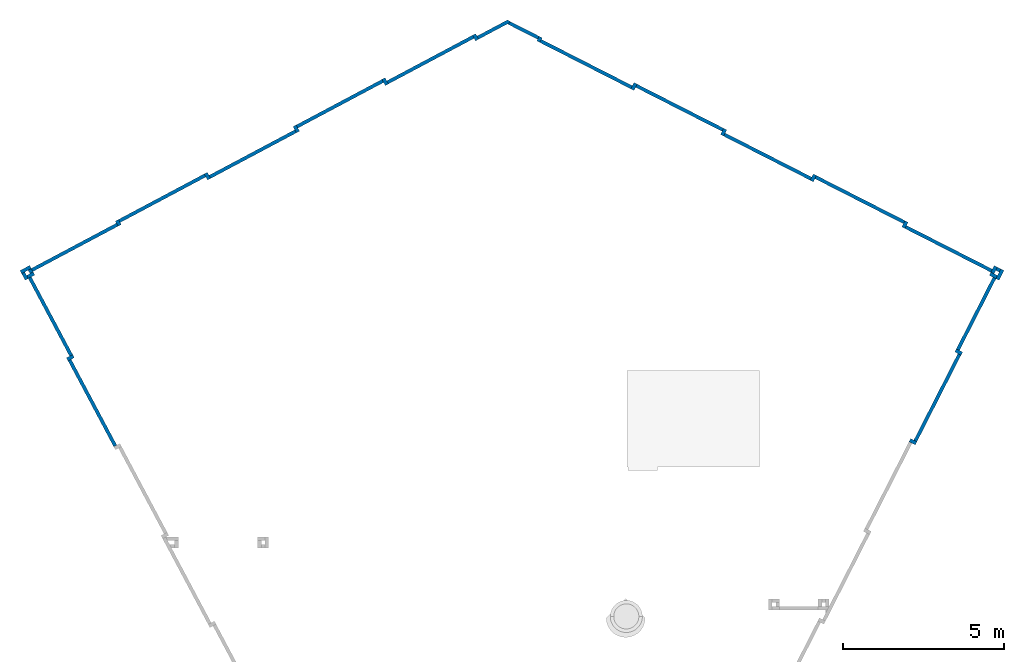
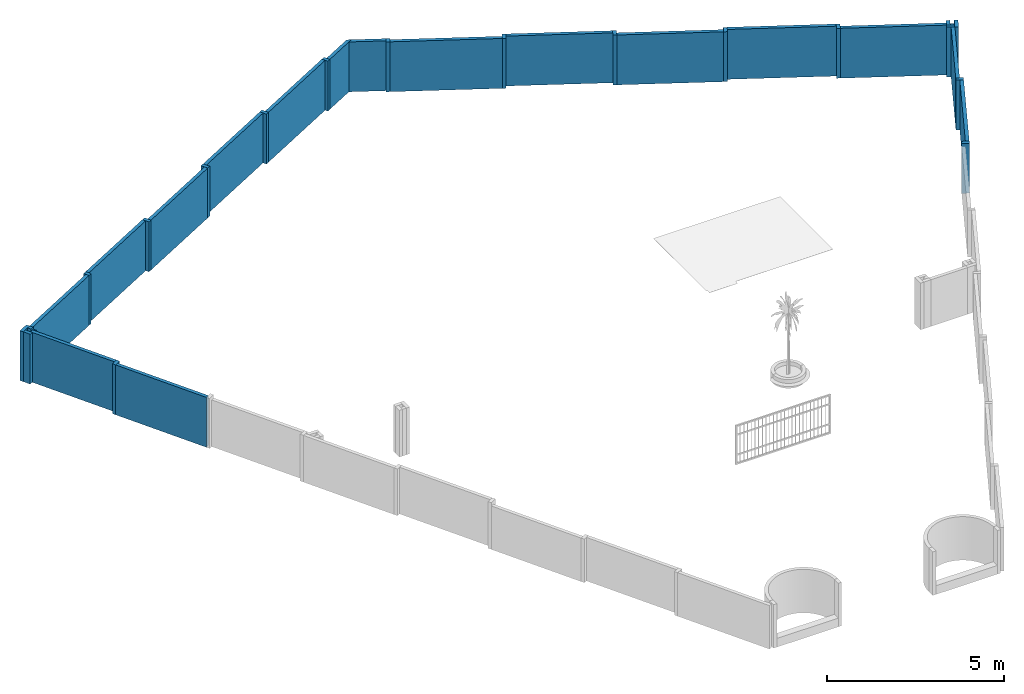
# One storey, part 2 of 4: 37 walls.
"""IFC2X3 building model written with IfcOpenShell, lengths in millimetres."""

from ifc_helpers import new_model, entity, si_unit, converted_unit, derived_unit, direction, frame, frame_2d, origin, place, context, subcontext, project, spatial, polyline, rectangle, outline, extrude, material, layer, layer_set, layer_usage, type_object, element, save


model = new_model("IFC2X3")

# Units and contexts
model_context = context("Model", 3, precision=0.01, world=origin(), true_north=direction((6.12303176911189e-17, 1.0)))
body_context = subcontext(model_context, "Body", "Model", "MODEL_VIEW")
ifc_project = project(units=[si_unit("LENGTHUNIT", "METRE", prefix="MILLI"), si_unit("AREAUNIT", "SQUARE_METRE"), si_unit("VOLUMEUNIT", "CUBIC_METRE"), converted_unit("PLANEANGLEUNIT", "DEGREE", entity("IfcRatioMeasure", 0.0174532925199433), si_unit("PLANEANGLEUNIT", "RADIAN"), dimensions=[0, 0, 0, 0, 0, 0, 0]), si_unit("MASSUNIT", "GRAM", prefix="KILO"), derived_unit("MASSDENSITYUNIT", [(si_unit("MASSUNIT", "GRAM", prefix="KILO"), 1), (si_unit("LENGTHUNIT", "METRE"), -3)]), si_unit("TIMEUNIT", "SECOND"), si_unit("FREQUENCYUNIT", "HERTZ"), si_unit("THERMODYNAMICTEMPERATUREUNIT", "DEGREE_CELSIUS"), derived_unit("THERMALTRANSMITTANCEUNIT", [(si_unit("MASSUNIT", "GRAM", prefix="KILO"), 1), (si_unit("THERMODYNAMICTEMPERATUREUNIT", "KELVIN"), -1), (si_unit("TIMEUNIT", "SECOND"), -3)]), derived_unit("VOLUMETRICFLOWRATEUNIT", [(si_unit("LENGTHUNIT", "METRE"), 3), (si_unit("TIMEUNIT", "SECOND"), -1)]), si_unit("ELECTRICCURRENTUNIT", "AMPERE"), si_unit("ELECTRICVOLTAGEUNIT", "VOLT"), si_unit("POWERUNIT", "WATT"), si_unit("FORCEUNIT", "NEWTON", prefix="KILO"), si_unit("ILLUMINANCEUNIT", "LUX"), si_unit("LUMINOUSFLUXUNIT", "LUMEN"), si_unit("LUMINOUSINTENSITYUNIT", "CANDELA"), derived_unit("USERDEFINED", [(si_unit("MASSUNIT", "GRAM", prefix="KILO"), -1), (si_unit("LENGTHUNIT", "METRE"), -2), (si_unit("TIMEUNIT", "SECOND"), 3), (si_unit("LUMINOUSFLUXUNIT", "LUMEN"), 1)]), derived_unit("LINEARVELOCITYUNIT", [(si_unit("LENGTHUNIT", "METRE"), 1), (si_unit("TIMEUNIT", "SECOND"), -1)]), si_unit("PRESSUREUNIT", "PASCAL"), derived_unit("USERDEFINED", [(si_unit("LENGTHUNIT", "METRE"), -2), (si_unit("MASSUNIT", "GRAM", prefix="KILO"), 1), (si_unit("TIMEUNIT", "SECOND"), -2)])], contexts=[model_context])

# Site, building, storey
site_placement = place(None, origin())
site = spatial("IfcSite", under=ifc_project, at=site_placement, Name="Surface", CompositionType="ELEMENT")
building_placement = place(site_placement, origin())
building = spatial("IfcBuilding", under=site, at=building_placement, CompositionType="ELEMENT")
storey_placement = place(building_placement, origin())
storey = spatial("IfcBuildingStorey", under=building, at=storey_placement, Name="N.G.L", CompositionType="ELEMENT", Elevation=0.0)

# Walls
ifc_material = material(Name="Brickwork - Facebrick (Plettenberg Autumn)")
ifc_layer = layer(ifc_material, 110.0)
ifc_layer_set = layer_set([ifc_layer], Name="Basic Wall:BrickWall - 110mm (Ext.F&Int.F)")
ifc_layer_usage_1 = layer_usage(ifc_layer_set, "AXIS2", "NEGATIVE", 55.0)
wall_type = type_object("IfcWallType", Name="Basic Wall:BrickWall - 110mm (Ext.F&Int.F)", PredefinedType="STANDARD", material=ifc_layer_set)
wall_1_placement = place(storey_placement, frame((-16858.51003831, 8195.0389259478, -170.0), z_axis=(0.0, 0.0, 1.0), x_axis=(-0.469471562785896, 0.882947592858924, 0.0)))
element("IfcWallStandardCase", 1, at=wall_1_placement, inside=storey, type_object=wall_type, material=ifc_layer_usage_1, Name="Basic Wall:BrickWall - 110mm (Ext.F&Int.F)", ObjectType="Basic Wall:BrickWall - 110mm (Ext.F&Int.F)", context=body_context, shape_type="SweptSolid", body=[
    extrude(rectangle(XDim=3020.0, YDim=109.999999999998, at=frame_2d((1510.0, -3.01980662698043e-13), x_axis=(-1.0, 0.0))), origin(), (0.0, 0.0, 1.0), 1720.0),
])
ifc_layer_usage_2 = layer_usage(ifc_layer_set, "AXIS2", "POSITIVE", -55.0)
wall_2_placement = place(storey_placement, frame((-18350.6972114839, 10884.2818380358, -170.0), z_axis=(0.0, 0.0, 1.0), x_axis=(0.88294759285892, 0.469471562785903, 0.0)))
element("IfcWallStandardCase", 2, at=wall_2_placement, inside=storey, type_object=wall_type, material=ifc_layer_usage_2, Name="Basic Wall:BrickWall - 110mm (Ext.F&Int.F)", ObjectType="Basic Wall:BrickWall - 110mm (Ext.F&Int.F)", context=body_context, shape_type="SweptSolid", body=[
    extrude(rectangle(XDim=219.999999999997, YDim=109.999999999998, at=frame_2d((109.999999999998, 5.04485342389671e-13), x_axis=(-1.0, 0.0))), origin(), (0.0, 0.0, 1.0), 1720.0),
])
ifc_layer_usage_3 = layer_usage(ifc_layer_set, "AXIS2", "POSITIVE", -55.0)
wall_3_placement = place(storey_placement, frame((-18230.8317946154, 11010.3067635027, -170.0), z_axis=(0.0, 0.0, 1.0), x_axis=(-0.469471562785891, 0.882947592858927, 0.0)))
element("IfcWallStandardCase", 3, at=wall_3_placement, inside=storey, type_object=wall_type, material=ifc_layer_usage_3, Name="Basic Wall:BrickWall - 110mm (Ext.F&Int.F)", ObjectType="Basic Wall:BrickWall - 110mm (Ext.F&Int.F)", context=body_context, shape_type="SweptSolid", body=[
    extrude(rectangle(XDim=2800.0, YDim=110.000000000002, at=frame_2d((1400.0, -2.45137243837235e-13), x_axis=(-1.0, 0.0))), origin(), (0.0, 0.0, 1.0), 1720.0),
])
ifc_layer_usage_4 = layer_usage(ifc_layer_set, "AXIS2", "POSITIVE", -55.0)
wall_4_placement = place(storey_placement, frame((7853.28395939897, 8375.87694595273, -170.0), z_axis=(0.0, 0.0, 1.0), x_axis=(0.891006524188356, -0.45399049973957, 0.0)))
element("IfcWallStandardCase", 4, at=wall_4_placement, inside=storey, type_object=wall_type, material=ifc_layer_usage_4, Name="Basic Wall:BrickWall - 110mm (Ext.F&Int.F)", ObjectType="Basic Wall:BrickWall - 110mm (Ext.F&Int.F)", context=body_context, shape_type="SweptSolid", body=[
    extrude(rectangle(XDim=220.0, YDim=109.999999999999, at=frame_2d((110.0, -3.5527136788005e-15), x_axis=(-1.0, 0.0))), origin(), (0.0, 0.0, 1.0), 1720.0),
])
ifc_layer_usage_5 = layer_usage(ifc_layer_set, "AXIS2", "POSITIVE", -55.0)
wall_5_placement = place(storey_placement, frame((8025.26951337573, 8349.97387232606, -170.0), z_axis=(0.0, 0.0, 1.0), x_axis=(0.453990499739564, 0.891006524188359, 0.0)))
element("IfcWallStandardCase", 5, at=wall_5_placement, inside=storey, type_object=wall_type, material=ifc_layer_usage_5, Name="Basic Wall:BrickWall - 110mm (Ext.F&Int.F)", ObjectType="Basic Wall:BrickWall - 110mm (Ext.F&Int.F)", context=body_context, shape_type="SweptSolid", body=[
    extrude(rectangle(XDim=3020.00000000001, YDim=110.000000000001, at=frame_2d((1510.0, 4.9737991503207e-14), x_axis=(-1.0, 0.0))), origin(), (0.0, 0.0, 1.0), 1720.0),
])
ifc_layer_usage_6 = layer_usage(ifc_layer_set, "AXIS2", "NEGATIVE", 55.0)
wall_6_placement = place(storey_placement, frame((9470.29565890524, 11064.8494567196, -170.0), z_axis=(0.0, 0.0, 1.0), x_axis=(-0.891006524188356, 0.45399049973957, 0.0)))
element("IfcWallStandardCase", 6, at=wall_6_placement, inside=storey, type_object=wall_type, material=ifc_layer_usage_6, Name="Basic Wall:BrickWall - 110mm (Ext.F&Int.F)", ObjectType="Basic Wall:BrickWall - 110mm (Ext.F&Int.F)", context=body_context, shape_type="SweptSolid", body=[
    extrude(rectangle(XDim=219.999999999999, YDim=109.999999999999, at=frame_2d((110.0, -2.48689957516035e-13), x_axis=(-1.0, 0.0))), origin(), (0.0, 0.0, 1.0), 1720.0),
])
ifc_layer_usage_7 = layer_usage(ifc_layer_set, "AXIS2", "NEGATIVE", 55.0)
wall_7_placement = place(storey_placement, frame((9348.24905989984, 11188.763248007, -170.0), z_axis=(0.0, 0.0, 1.0), x_axis=(0.453990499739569, 0.891006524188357, 0.0)))
element("IfcWallStandardCase", 7, at=wall_7_placement, inside=storey, type_object=wall_type, material=ifc_layer_usage_7, Name="Basic Wall:BrickWall - 110mm (Ext.F&Int.F)", ObjectType="Basic Wall:BrickWall - 110mm (Ext.F&Int.F)", context=body_context, shape_type="SweptSolid", body=[
    extrude(rectangle(XDim=2501.70423064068, YDim=110.000000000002, at=frame_2d((1250.85211532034, 7.105427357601e-15), x_axis=(-1.0, 0.0))), origin(), (0.0, 0.0, 1.0), 1720.0),
])
ifc_layer_usage_8 = layer_usage(ifc_layer_set, "AXIS2", "NEGATIVE", 55.0)
wall_8_placement = place(storey_placement, frame((-19794.3222670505, 13599.345686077, -170.0), z_axis=(0.0, 0.0, 1.0), x_axis=(0.882947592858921, 0.469471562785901, 0.0)))
element("IfcWallStandardCase", 8, at=wall_8_placement, inside=storey, type_object=wall_type, material=ifc_layer_usage_8, Name="Basic Wall:BrickWall - 110mm (Ext.F&Int.F)", ObjectType="Basic Wall:BrickWall - 110mm (Ext.F&Int.F)", context=body_context, shape_type="SweptSolid", body=[
    extrude(rectangle(XDim=340.000000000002, YDim=109.999999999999, at=frame_2d((170.000000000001, -1.01607611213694e-12), x_axis=(-1.0, 0.0))), origin(), (0.0, 0.0, 1.0), 1720.0),
])
ifc_layer_usage_9 = layer_usage(ifc_layer_set, "AXIS2", "POSITIVE", -55.0)
wall_9_placement = place(storey_placement, frame((-19719.93921349, 13576.604504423, -170.0), z_axis=(0.0, 0.0, 1.0), x_axis=(0.469471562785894, -0.882947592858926, 0.0)))
element("IfcWallStandardCase", 9, at=wall_9_placement, inside=storey, type_object=wall_type, material=ifc_layer_usage_9, Name="Basic Wall:BrickWall - 110mm (Ext.F&Int.F)", ObjectType="Basic Wall:BrickWall - 110mm (Ext.F&Int.F)", context=body_context, shape_type="SweptSolid", body=[
    extrude(rectangle(XDim=230.000000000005, YDim=110.000000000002, at=frame_2d((115.000000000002, 5.50670620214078e-13), x_axis=(-1.0, 0.0))), origin(), (0.0, 0.0, 1.0), 1720.0),
])
ifc_layer_usage_10 = layer_usage(ifc_layer_set, "AXIS2", "POSITIVE", -55.0)
wall_10_placement = place(storey_placement, frame((-19589.2195723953, 13447.9096116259, -170.0), z_axis=(0.0, 0.0, 1.0), x_axis=(0.882947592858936, 0.469471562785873, 0.0)))
element("IfcWallStandardCase", 10, at=wall_10_placement, inside=storey, type_object=wall_type, material=ifc_layer_usage_10, Name="Basic Wall:BrickWall - 110mm (Ext.F&Int.F)", ObjectType="Basic Wall:BrickWall - 110mm (Ext.F&Int.F)", context=body_context, shape_type="SweptSolid", body=[
    extrude(rectangle(XDim=229.999999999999, YDim=110.0, at=frame_2d((114.999999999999, -1.3855583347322e-13), x_axis=(-1.0, 0.0))), origin(), (0.0, 0.0, 1.0), 1657.6),
])
ifc_layer_usage_11 = layer_usage(ifc_layer_set, "AXIS2", "POSITIVE", -55.0)
wall_11_placement = place(storey_placement, frame((-19460.5246795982, 13578.6292527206, -170.0), z_axis=(0.0, 0.0, 1.0), x_axis=(-0.469471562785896, 0.882947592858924, 0.0)))
element("IfcWallStandardCase", 11, at=wall_11_placement, inside=storey, type_object=wall_type, material=ifc_layer_usage_11, Name="Basic Wall:BrickWall - 110mm (Ext.F&Int.F)", ObjectType="Basic Wall:BrickWall - 110mm (Ext.F&Int.F)", context=body_context, shape_type="SweptSolid", body=[
    extrude(rectangle(XDim=120.00000000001, YDim=110.0, at=frame_2d((60.0000000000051, 9.55679979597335e-13), x_axis=(-1.0, 0.0))), origin(), (0.0, 0.0, 1.0), 1720.0),
])
ifc_layer_usage_12 = layer_usage(ifc_layer_set, "AXIS2", "NEGATIVE", 55.0)
wall_12_placement = place(storey_placement, frame((10732.2921635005, 13672.8772811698, -170.0), z_axis=(0.0, 0.0, 1.0), x_axis=(-0.453990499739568, -0.891006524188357, 0.0)))
element("IfcWallStandardCase", 12, at=wall_12_placement, inside=storey, type_object=wall_type, material=ifc_layer_usage_12, Name="Basic Wall:BrickWall - 110mm (Ext.F&Int.F)", ObjectType="Basic Wall:BrickWall - 110mm (Ext.F&Int.F)", context=body_context, shape_type="SweptSolid", body=[
    extrude(rectangle(XDim=339.999999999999, YDim=110.0, at=frame_2d((170.0, 0.0), x_axis=(-1.0, 0.0))), origin(), (0.0, 0.0, 1.0), 1720.0),
])
ifc_layer_usage_13 = layer_usage(ifc_layer_set, "AXIS2", "NEGATIVE", 55.0)
wall_13_placement = place(storey_placement, frame((10553.8995122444, 13443.9098992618, -170.0), z_axis=(0.0, 0.0, 1.0), x_axis=(-0.891006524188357, 0.453990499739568, 0.0)))
element("IfcWallStandardCase", 13, at=wall_13_placement, inside=storey, type_object=wall_type, material=ifc_layer_usage_13, Name="Basic Wall:BrickWall - 110mm (Ext.F&Int.F)", ObjectType="Basic Wall:BrickWall - 110mm (Ext.F&Int.F)", context=body_context, shape_type="SweptSolid", body=[
    extrude(rectangle(XDim=229.999999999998, YDim=110.0, at=frame_2d((114.999999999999, 3.58824081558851e-13), x_axis=(-1.0, 0.0))), origin(), (0.0, 0.0, 1.0), 1720.0),
])
ifc_layer_usage_14 = layer_usage(ifc_layer_set, "AXIS2", "NEGATIVE", 55.0)
wall_14_placement = place(storey_placement, frame((10422.9428479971, 13572.3635955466, -170.0), z_axis=(0.0, 0.0, 1.0), x_axis=(0.453990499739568, 0.891006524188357, 0.0)))
element("IfcWallStandardCase", 14, at=wall_14_placement, inside=storey, type_object=wall_type, material=ifc_layer_usage_14, Name="Basic Wall:BrickWall - 110mm (Ext.F&Int.F)", ObjectType="Basic Wall:BrickWall - 110mm (Ext.F&Int.F)", context=body_context, shape_type="SweptSolid", body=[
    extrude(rectangle(XDim=229.999999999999, YDim=110.0, at=frame_2d((114.999999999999, -6.03961325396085e-13), x_axis=(-1.0, 0.0))), origin(), (0.0, 0.0, 1.0), 1720.0),
])
ifc_layer_usage_15 = layer_usage(ifc_layer_set, "AXIS2", "NEGATIVE", 55.0)
wall_15_placement = place(storey_placement, frame((10551.3965442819, 13703.3202597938, -170.0), z_axis=(0.0, 0.0, 1.0), x_axis=(0.891006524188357, -0.453990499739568, 0.0)))
element("IfcWallStandardCase", 15, at=wall_15_placement, inside=storey, type_object=wall_type, material=ifc_layer_usage_15, Name="Basic Wall:BrickWall - 110mm (Ext.F&Int.F)", ObjectType="Basic Wall:BrickWall - 110mm (Ext.F&Int.F)", context=body_context, shape_type="SweptSolid", body=[
    extrude(rectangle(XDim=119.999999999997, YDim=110.0, at=frame_2d((60.0000000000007, 7.49622586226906e-13), x_axis=(-1.0, 0.0))), origin(), (0.0, 0.0, 1.0), 1610.0),
])
ifc_layer_usage_16 = layer_usage(ifc_layer_set, "AXIS2", "NEGATIVE", 55.0)
wall_16_placement = place(storey_placement, frame((10396.6370141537, 13641.8833992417, -170.0), z_axis=(0.0, 0.0, 1.0), x_axis=(-0.891006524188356, 0.45399049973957, 0.0)))
element("IfcWallStandardCase", 16, at=wall_16_placement, inside=storey, type_object=wall_type, material=ifc_layer_usage_16, Name="Basic Wall:BrickWall - 110mm (Ext.F&Int.F)", ObjectType="Basic Wall:BrickWall - 110mm (Ext.F&Int.F)", context=body_context, shape_type="SweptSolid", body=[
    extrude(rectangle(XDim=3000.00000000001, YDim=109.999999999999, at=frame_2d((1500.0, 4.90274487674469e-13), x_axis=(-1.0, 0.0))), origin(), (0.0, 0.0, 1.0), 1720.0),
])
ifc_layer_usage_17 = layer_usage(ifc_layer_set, "AXIS2", "POSITIVE", -55.0)
wall_17_placement = place(storey_placement, frame((7649.64260527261, 14979.8190171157, -170.0), z_axis=(0.0, 0.0, 1.0), x_axis=(0.453990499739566, 0.891006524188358, 0.0)))
element("IfcWallStandardCase", 17, at=wall_17_placement, inside=storey, type_object=wall_type, material=ifc_layer_usage_17, Name="Basic Wall:BrickWall - 110mm (Ext.F&Int.F)", ObjectType="Basic Wall:BrickWall - 110mm (Ext.F&Int.F)", context=body_context, shape_type="SweptSolid", body=[
    extrude(rectangle(XDim=220.000000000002, YDim=110.000000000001, at=frame_2d((110.000000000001, -4.76063632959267e-13), x_axis=(-1.0, 0.0))), origin(), (0.0, 0.0, 1.0), 1720.0),
])
ifc_layer_usage_18 = layer_usage(ifc_layer_set, "AXIS2", "POSITIVE", -55.0)
wall_18_placement = place(storey_placement, frame((7675.54567889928, 15151.8045710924, -170.0), z_axis=(0.0, 0.0, 1.0), x_axis=(-0.891006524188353, 0.453990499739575, 0.0)))
element("IfcWallStandardCase", 18, at=wall_18_placement, inside=storey, type_object=wall_type, material=ifc_layer_usage_18, Name="Basic Wall:BrickWall - 110mm (Ext.F&Int.F)", ObjectType="Basic Wall:BrickWall - 110mm (Ext.F&Int.F)", context=body_context, shape_type="SweptSolid", body=[
    extrude(rectangle(XDim=3085.0, YDim=110.0, at=frame_2d((1542.5, 2.20268248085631e-13), x_axis=(-1.0, 0.0))), origin(), (0.0, 0.0, 1.0), 1720.0),
])
ifc_layer_usage_19 = layer_usage(ifc_layer_set, "AXIS2", "NEGATIVE", 55.0)
wall_19_placement = place(storey_placement, frame((4902.75467043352, 16626.3400991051, -170.0), z_axis=(0.0, 0.0, 1.0), x_axis=(-0.453990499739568, -0.891006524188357, 0.0)))
element("IfcWallStandardCase", 19, at=wall_19_placement, inside=storey, type_object=wall_type, material=ifc_layer_usage_19, Name="Basic Wall:BrickWall - 110mm (Ext.F&Int.F)", ObjectType="Basic Wall:BrickWall - 110mm (Ext.F&Int.F)", context=body_context, shape_type="SweptSolid", body=[
    extrude(rectangle(XDim=220.000000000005, YDim=110.000000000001, at=frame_2d((110.000000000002, -2.20268248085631e-13), x_axis=(-1.0, 0.0))), origin(), (0.0, 0.0, 1.0), 1720.0),
])
ifc_layer_usage_20 = layer_usage(ifc_layer_set, "AXIS2", "NEGATIVE", 55.0)
wall_20_placement = place(storey_placement, frame((4778.84087914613, 16504.2935000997, -170.0), z_axis=(0.0, 0.0, 1.0), x_axis=(-0.891006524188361, 0.45399049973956, 0.0)))
element("IfcWallStandardCase", 20, at=wall_20_placement, inside=storey, type_object=wall_type, material=ifc_layer_usage_20, Name="Basic Wall:BrickWall - 110mm (Ext.F&Int.F)", ObjectType="Basic Wall:BrickWall - 110mm (Ext.F&Int.F)", context=body_context, shape_type="SweptSolid", body=[
    extrude(rectangle(XDim=3020.0, YDim=109.999999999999, at=frame_2d((1510.0, 3.33955085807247e-13), x_axis=(-1.0, 0.0))), origin(), (0.0, 0.0, 1.0), 1720.0),
])
ifc_layer_usage_21 = layer_usage(ifc_layer_set, "AXIS2", "POSITIVE", -55.0)
wall_21_placement = place(storey_placement, frame((2014.02633978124, 17851.3089279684, -170.0), z_axis=(0.0, 0.0, 1.0), x_axis=(0.453990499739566, 0.891006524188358, 0.0)))
element("IfcWallStandardCase", 21, at=wall_21_placement, inside=storey, type_object=wall_type, material=ifc_layer_usage_21, Name="Basic Wall:BrickWall - 110mm (Ext.F&Int.F)", ObjectType="Basic Wall:BrickWall - 110mm (Ext.F&Int.F)", context=body_context, shape_type="SweptSolid", body=[
    extrude(rectangle(XDim=220.000000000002, YDim=110.000000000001, at=frame_2d((110.000000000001, 7.105427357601e-15), x_axis=(-1.0, 0.0))), origin(), (0.0, 0.0, 1.0), 1720.0),
])
ifc_layer_usage_22 = layer_usage(ifc_layer_set, "AXIS2", "POSITIVE", -55.0)
wall_22_placement = place(storey_placement, frame((2039.92941340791, 18023.2944819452, -170.0), z_axis=(0.0, 0.0, 1.0), x_axis=(-0.891006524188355, 0.453990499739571, 0.0)))
element("IfcWallStandardCase", 22, at=wall_22_placement, inside=storey, type_object=wall_type, material=ifc_layer_usage_22, Name="Basic Wall:BrickWall - 110mm (Ext.F&Int.F)", ObjectType="Basic Wall:BrickWall - 110mm (Ext.F&Int.F)", context=body_context, shape_type="SweptSolid", body=[
    extrude(rectangle(XDim=3020.0, YDim=109.999999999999, at=frame_2d((1510.0, 2.8066438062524e-13), x_axis=(-1.0, 0.0))), origin(), (0.0, 0.0, 1.0), 1720.0),
])
ifc_layer_usage_23 = layer_usage(ifc_layer_set, "AXIS2", "NEGATIVE", 55.0)
wall_23_placement = place(storey_placement, frame((-674.946170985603, 19468.3206274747, -170.0), z_axis=(0.0, 0.0, 1.0), x_axis=(-0.453990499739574, -0.891006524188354, 0.0)))
element("IfcWallStandardCase", 23, at=wall_23_placement, inside=storey, type_object=wall_type, material=ifc_layer_usage_23, Name="Basic Wall:BrickWall - 110mm (Ext.F&Int.F)", ObjectType="Basic Wall:BrickWall - 110mm (Ext.F&Int.F)", context=body_context, shape_type="SweptSolid", body=[
    extrude(rectangle(XDim=220.000000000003, YDim=110.0, at=frame_2d((110.000000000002, 7.105427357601e-15), x_axis=(-1.0, 0.0))), origin(), (0.0, 0.0, 1.0), 1720.0),
])
ifc_layer_usage_24 = layer_usage(ifc_layer_set, "AXIS2", "NEGATIVE", 55.0)
wall_24_placement = place(storey_placement, frame((-798.859962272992, 19346.2740284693, -170.0), z_axis=(0.0, 0.0, 1.0), x_axis=(-0.89100652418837, 0.453990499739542, 0.0)))
element("IfcWallStandardCase", 24, at=wall_24_placement, inside=storey, type_object=wall_type, material=ifc_layer_usage_24, Name="Basic Wall:BrickWall - 110mm (Ext.F&Int.F)", ObjectType="Basic Wall:BrickWall - 110mm (Ext.F&Int.F)", context=body_context, shape_type="SweptSolid", body=[
    extrude(rectangle(XDim=3176.06259635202, YDim=110.000000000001, at=frame_2d((1588.03129817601, -1.45661260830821e-13), x_axis=(-1.0, 0.0))), origin(), (0.0, 0.0, 1.0), 1720.0),
])
ifc_layer_usage_25 = layer_usage(ifc_layer_set, "AXIS2", "NEGATIVE", 55.0)
wall_25_placement = place(storey_placement, frame((-19444.8255713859, 13666.256520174, -170.0), z_axis=(0.0, 0.0, 1.0), x_axis=(0.882947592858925, 0.469471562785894, 0.0)))
element("IfcWallStandardCase", 25, at=wall_25_placement, inside=storey, type_object=wall_type, material=ifc_layer_usage_25, Name="Basic Wall:BrickWall - 110mm (Ext.F&Int.F)", ObjectType="Basic Wall:BrickWall - 110mm (Ext.F&Int.F)", context=body_context, shape_type="SweptSolid", body=[
    extrude(rectangle(XDim=3000.0, YDim=110.000000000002, at=frame_2d((1500.0, -4.2632564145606e-14), x_axis=(-1.0, 0.0))), origin(), (0.0, 0.0, 1.0), 1720.0),
])
ifc_layer_usage_26 = layer_usage(ifc_layer_set, "AXIS2", "NEGATIVE", 55.0)
wall_26_placement = place(storey_placement, frame((-16721.5997392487, 15051.9300268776, -170.0), z_axis=(0.0, 0.0, 1.0), x_axis=(-0.469471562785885, 0.88294759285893, 0.0)))
element("IfcWallStandardCase", 26, at=wall_26_placement, inside=storey, type_object=wall_type, material=ifc_layer_usage_26, Name="Basic Wall:BrickWall - 110mm (Ext.F&Int.F)", ObjectType="Basic Wall:BrickWall - 110mm (Ext.F&Int.F)", context=body_context, shape_type="SweptSolid", body=[
    extrude(rectangle(XDim=179.999999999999, YDim=110.000000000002, at=frame_2d((89.9999999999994, -3.76587649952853e-13), x_axis=(-1.0, 0.0))), origin(), (0.0, 0.0, 1.0), 1720.0),
])
ifc_layer_usage_27 = layer_usage(ifc_layer_set, "AXIS2", "NEGATIVE", 55.0)
wall_27_placement = place(storey_placement, frame((-16731.7215669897, 15188.1194119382, -170.0), z_axis=(0.0, 0.0, 1.0), x_axis=(0.882947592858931, 0.469471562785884, 0.0)))
element("IfcWallStandardCase", 27, at=wall_27_placement, inside=storey, type_object=wall_type, material=ifc_layer_usage_27, Name="Basic Wall:BrickWall - 110mm (Ext.F&Int.F)", ObjectType="Basic Wall:BrickWall - 110mm (Ext.F&Int.F)", context=body_context, shape_type="SweptSolid", body=[
    extrude(rectangle(XDim=3020.00000000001, YDim=110.000000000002, at=frame_2d((1510.0, 2.27373675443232e-13), x_axis=(-1.0, 0.0))), origin(), (0.0, 0.0, 1.0), 1720.0),
])
ifc_layer_usage_28 = layer_usage(ifc_layer_set, "AXIS2", "POSITIVE", -55.0)
wall_28_placement = place(storey_placement, frame((-14042.4786549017, 16680.3065851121, -170.0), z_axis=(0.0, 0.0, 1.0), x_axis=(0.469471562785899, -0.882947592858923, 0.0)))
element("IfcWallStandardCase", 28, at=wall_28_placement, inside=storey, type_object=wall_type, material=ifc_layer_usage_28, Name="Basic Wall:BrickWall - 110mm (Ext.F&Int.F)", ObjectType="Basic Wall:BrickWall - 110mm (Ext.F&Int.F)", context=body_context, shape_type="SweptSolid", body=[
    extrude(rectangle(XDim=220.000000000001, YDim=109.999999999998, at=frame_2d((110.0, 0.0), x_axis=(-1.0, 0.0))), origin(), (0.0, 0.0, 1.0), 1720.0),
])
ifc_layer_usage_29 = layer_usage(ifc_layer_set, "AXIS2", "POSITIVE", -55.0)
wall_29_placement = place(storey_placement, frame((-13916.4537294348, 16560.4411682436, -170.0), z_axis=(0.0, 0.0, 1.0), x_axis=(0.88294759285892, 0.469471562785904, 0.0)))
element("IfcWallStandardCase", 29, at=wall_29_placement, inside=storey, type_object=wall_type, material=ifc_layer_usage_29, Name="Basic Wall:BrickWall - 110mm (Ext.F&Int.F)", ObjectType="Basic Wall:BrickWall - 110mm (Ext.F&Int.F)", context=body_context, shape_type="SweptSolid", body=[
    extrude(rectangle(XDim=3020.0, YDim=109.999999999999, at=frame_2d((1510.0, -3.01980662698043e-13), x_axis=(-1.0, 0.0))), origin(), (0.0, 0.0, 1.0), 1720.0),
])
ifc_layer_usage_30 = layer_usage(ifc_layer_set, "AXIS2", "NEGATIVE", 55.0)
wall_30_placement = place(storey_placement, frame((-11175.5689454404, 17955.504106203, -170.0), z_axis=(0.0, 0.0, 1.0), x_axis=(-0.469471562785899, 0.882947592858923, 0.0)))
element("IfcWallStandardCase", 30, at=wall_30_placement, inside=storey, type_object=wall_type, material=ifc_layer_usage_30, Name="Basic Wall:BrickWall - 110mm (Ext.F&Int.F)", ObjectType="Basic Wall:BrickWall - 110mm (Ext.F&Int.F)", context=body_context, shape_type="SweptSolid", body=[
    extrude(rectangle(XDim=220.000000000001, YDim=109.999999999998, at=frame_2d((110.0, 0.0), x_axis=(-1.0, 0.0))), origin(), (0.0, 0.0, 1.0), 1720.0),
])
ifc_layer_usage_31 = layer_usage(ifc_layer_set, "AXIS2", "NEGATIVE", 55.0)
wall_31_placement = place(storey_placement, frame((-11204.4696356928, 18127.0113949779, -170.0), z_axis=(0.0, 0.0, 1.0), x_axis=(0.882947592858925, 0.469471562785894, 0.0)))
element("IfcWallStandardCase", 31, at=wall_31_placement, inside=storey, type_object=wall_type, material=ifc_layer_usage_31, Name="Basic Wall:BrickWall - 110mm (Ext.F&Int.F)", ObjectType="Basic Wall:BrickWall - 110mm (Ext.F&Int.F)", context=body_context, shape_type="SweptSolid", body=[
    extrude(rectangle(XDim=3020.0, YDim=110.0, at=frame_2d((1510.0, -1.77635683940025e-13), x_axis=(-1.0, 0.0))), origin(), (0.0, 0.0, 1.0), 1720.0),
])
ifc_layer_usage_32 = layer_usage(ifc_layer_set, "AXIS2", "POSITIVE", -55.0)
wall_32_placement = place(storey_placement, frame((-8515.22672360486, 19619.1985681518, -170.0), z_axis=(0.0, 0.0, 1.0), x_axis=(0.469471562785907, -0.882947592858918, 0.0)))
element("IfcWallStandardCase", 32, at=wall_32_placement, inside=storey, type_object=wall_type, material=ifc_layer_usage_32, Name="Basic Wall:BrickWall - 110mm (Ext.F&Int.F)", ObjectType="Basic Wall:BrickWall - 110mm (Ext.F&Int.F)", context=body_context, shape_type="SweptSolid", body=[
    extrude(rectangle(XDim=219.999999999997, YDim=110.000000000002, at=frame_2d((109.999999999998, 3.5527136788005e-14), x_axis=(-1.0, 0.0))), origin(), (0.0, 0.0, 1.0), 1720.0),
])
ifc_layer_usage_33 = layer_usage(ifc_layer_set, "AXIS2", "POSITIVE", -55.0)
wall_33_placement = place(storey_placement, frame((-8389.20179813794, 19499.3331512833, -170.0), z_axis=(0.0, 0.0, 1.0), x_axis=(0.88294759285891, 0.469471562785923, 0.0)))
element("IfcWallStandardCase", 33, at=wall_33_placement, inside=storey, type_object=wall_type, material=ifc_layer_usage_33, Name="Basic Wall:BrickWall - 110mm (Ext.F&Int.F)", ObjectType="Basic Wall:BrickWall - 110mm (Ext.F&Int.F)", context=body_context, shape_type="SweptSolid", body=[
    extrude(rectangle(XDim=3020.0, YDim=109.999999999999, at=frame_2d((1510.0, 9.27258270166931e-13), x_axis=(-1.0, 0.0))), origin(), (0.0, 0.0, 1.0), 1720.0),
])
ifc_layer_usage_34 = layer_usage(ifc_layer_set, "AXIS2", "POSITIVE", -55.0)
wall_34_placement = place(storey_placement, frame((-5699.95888605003, 20991.5203244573, -170.0), z_axis=(0.0, 0.0, 1.0), x_axis=(0.46947156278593, -0.882947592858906, 0.0)))
element("IfcWallStandardCase", 34, at=wall_34_placement, inside=storey, type_object=wall_type, material=ifc_layer_usage_34, Name="Basic Wall:BrickWall - 110mm (Ext.F&Int.F)", ObjectType="Basic Wall:BrickWall - 110mm (Ext.F&Int.F)", context=body_context, shape_type="SweptSolid", body=[
    extrude(rectangle(XDim=199.999999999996, YDim=110.0, at=frame_2d((99.999999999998, 1.74082970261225e-13), x_axis=(-1.0, 0.0))), origin(), (0.0, 0.0, 1.0), 1720.0),
])
ifc_layer_usage_35 = layer_usage(ifc_layer_set, "AXIS2", "POSITIVE", -55.0)
wall_35_placement = place(storey_placement, frame((-5583.32339183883, 20889.3138594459, -170.0), z_axis=(0.0, 0.0, 1.0), x_axis=(0.88294759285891, 0.469471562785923, 0.0)))
element("IfcWallStandardCase", 35, at=wall_35_placement, inside=storey, type_object=wall_type, material=ifc_layer_usage_35, Name="Basic Wall:BrickWall - 110mm (Ext.F&Int.F)", ObjectType="Basic Wall:BrickWall - 110mm (Ext.F&Int.F)", context=body_context, shape_type="SweptSolid", body=[
    extrude(outline(polyline([(1146.04986636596, -55.0), (1069.0270371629, 55.0), (0.0, 55.0), (0.0, -55.0), (1011.76466160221, -55.0), (1146.04986636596, -55.0)])), origin(), (0.0, 0.0, 1.0), 1720.0),
])
ifc_layer_usage_36 = layer_usage(ifc_layer_set, "AXIS2", "NEGATIVE", 55.0)
wall_36_placement = place(storey_placement, frame((-3702.72729316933, 20764.1403924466, -170.0), z_axis=(0.0, 0.0, 1.0), x_axis=(0.453990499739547, 0.891006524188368, 0.0)))
element("IfcWallStandardCase", 36, at=wall_36_placement, inside=storey, type_object=wall_type, material=ifc_layer_usage_36, Name="Basic Wall:BrickWall - 110mm (Ext.F&Int.F)", ObjectType="Basic Wall:BrickWall - 110mm (Ext.F&Int.F)", context=body_context, shape_type="SweptSolid", body=[
    extrude(rectangle(XDim=164.999999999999, YDim=110.000000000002, at=frame_2d((82.4999999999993, -1.77635683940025e-14), x_axis=(-1.0, 0.0))), origin(), (0.0, 0.0, 1.0), 1720.0),
])
ifc_layer_usage_37 = layer_usage(ifc_layer_set, "AXIS2", "POSITIVE", -55.0)
wall_37_placement = place(storey_placement, frame((-3701.79369702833, 20887.120587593, -170.0), z_axis=(0.0, 0.0, 1.0), x_axis=(-0.891006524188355, 0.453990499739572, 0.0)))
element("IfcWallStandardCase", 37, at=wall_37_placement, inside=storey, type_object=wall_type, material=ifc_layer_usage_37, Name="Basic Wall:BrickWall - 110mm (Ext.F&Int.F)", ObjectType="Basic Wall:BrickWall - 110mm (Ext.F&Int.F)", context=body_context, shape_type="SweptSolid", body=[
    extrude(outline(polyline([(975.050397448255, -55.0), (1052.07322665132, 55.0), (0.0, 55.0), (0.0, -55.0), (975.050397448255, -55.0)])), origin(), (0.0, 0.0, 1.0), 1720.0),
])

save(model, "model.ifc")
